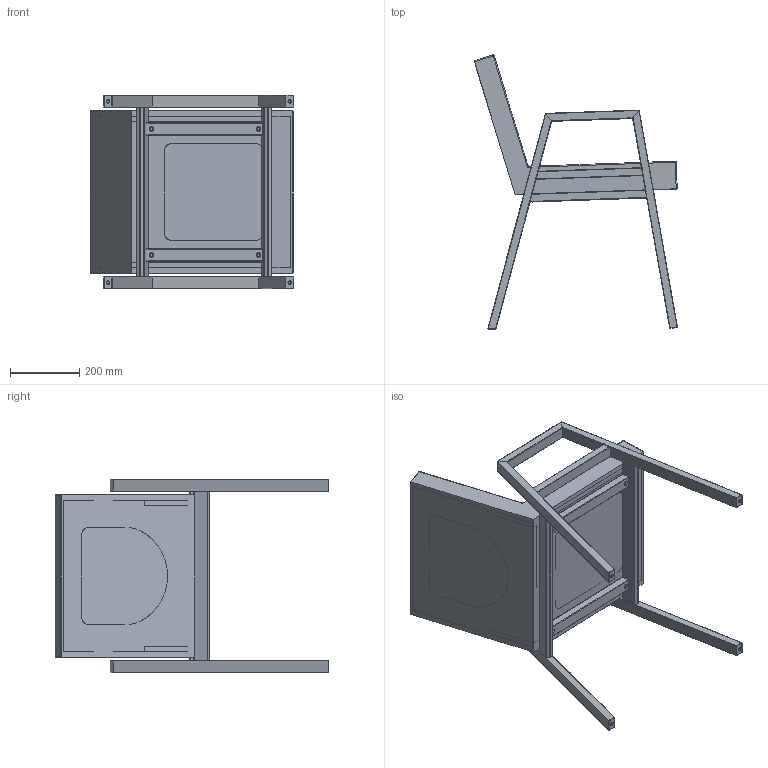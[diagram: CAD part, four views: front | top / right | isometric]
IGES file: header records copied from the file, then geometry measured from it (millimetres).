
Start section: SolidWorks IGES file using analytic representation for surfaces
Global section: file name: W:\design\ACHILLE CASTIGLIONI\babela\IGS\Babela.IGS; native system: SolidWorks 2010; preprocessor: SolidWorks 2010; author: PC20; date: 150309.185836; units: millimetre
Bounding box: 588.52 x 793.32 x 560 mm (x, y, z)
Surface area: 2242152.3 mm2 (no closed solid volume)
Topology: 0 solids, 0 shells, 293 faces, 5848 edges, 7240 vertices
Faces by surface type: bspline 161, revolution 132
